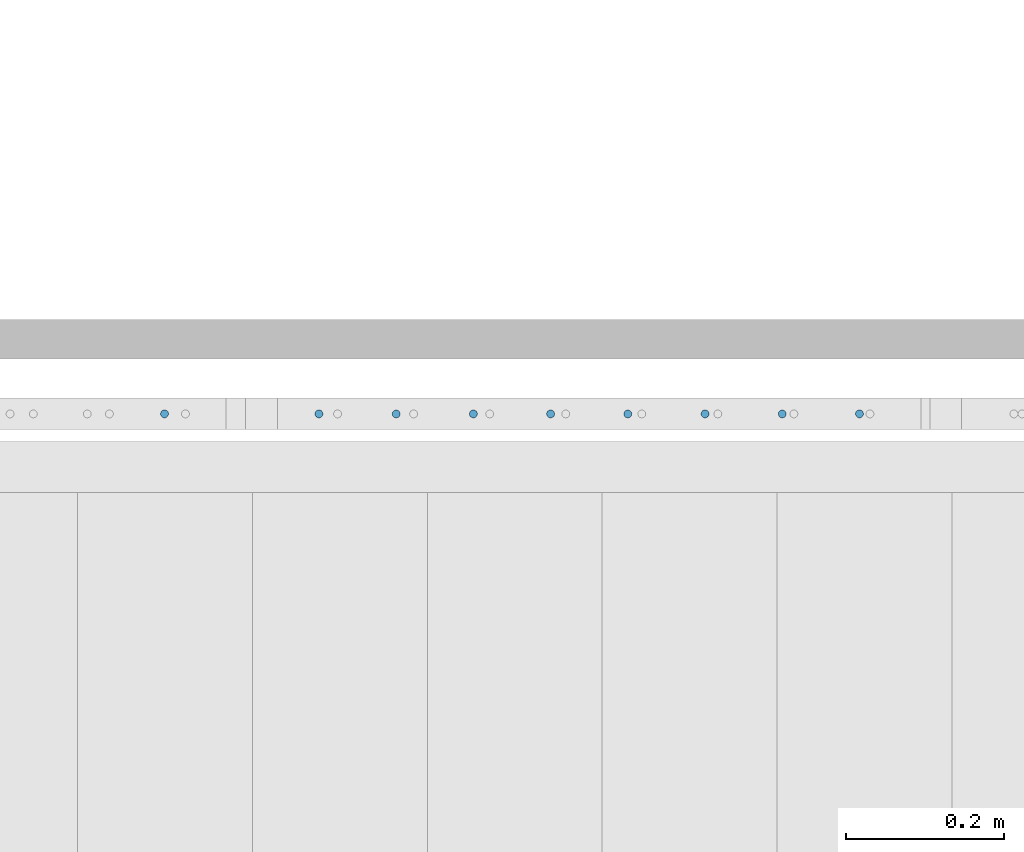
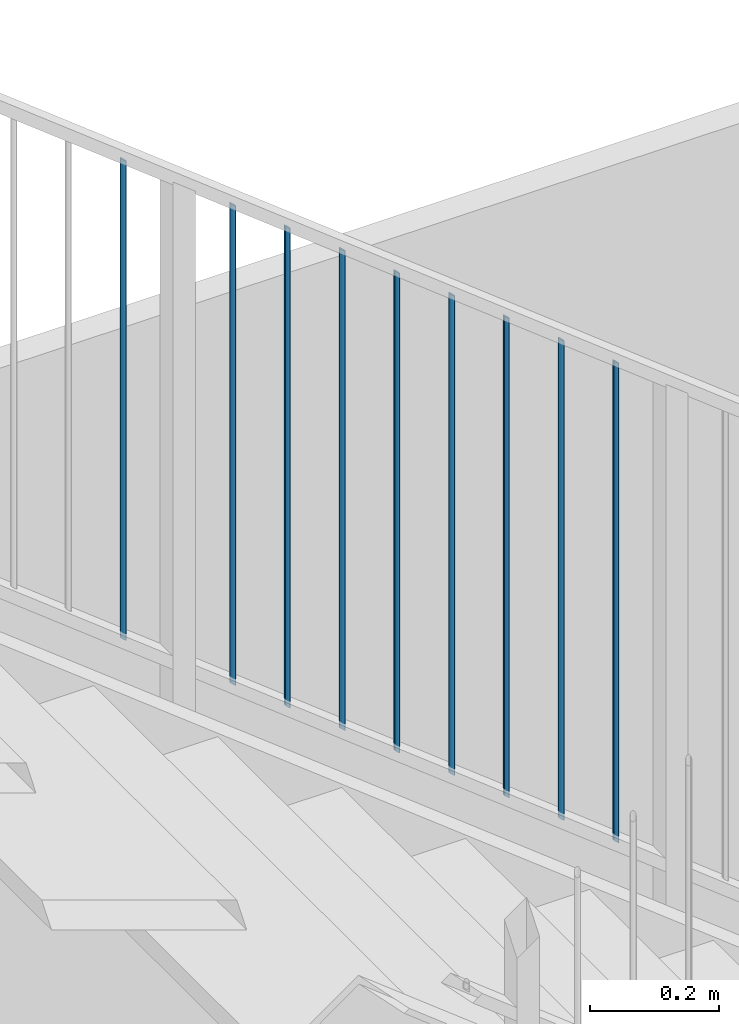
# One storey, part 31 of 135: 9 members, 1 element without a shape of its own.
"""IFC2X3 building model written with IfcOpenShell, lengths in millimetres."""

from ifc_helpers import new_model, entity, si_unit, converted_unit, derived_unit, money_unit, direction, frame, origin_with_axes, place, context, subcontext, project, spatial, faceted_brep, source, transform, mapped, material, type_object, type_shapes, element, aggregate, save


model = new_model("IFC2X3")

# Units and contexts
model_context = context("Model", 3, precision=0.01, world=origin_with_axes(), true_north=direction((0.0, 1.0)))
body_context = subcontext(model_context, "Body", "Model", "MODEL_VIEW")
ifc_project = project(units=[si_unit("LENGTHUNIT", "METRE", prefix="MILLI"), si_unit("AREAUNIT", "SQUARE_METRE"), si_unit("VOLUMEUNIT", "CUBIC_METRE"), converted_unit("PLANEANGLEUNIT", "DEGREE", entity("IfcPlaneAngleMeasure", 0.0174532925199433), si_unit("PLANEANGLEUNIT", "RADIAN"), dimensions=[0, 0, 0, 0, 0, 0, 0]), money_unit("EUR"), converted_unit("TIMEUNIT", "Year", entity("IfcTimeMeasure", 31557600.0), si_unit("TIMEUNIT", "SECOND"), dimensions=[0, 0, 1, 0, 0, 0, 0]), si_unit("MASSUNIT", "GRAM", prefix="KILO"), si_unit("THERMODYNAMICTEMPERATUREUNIT", "DEGREE_CELSIUS"), si_unit("LUMINOUSINTENSITYUNIT", "LUMEN"), si_unit("ENERGYUNIT", "JOULE", prefix="MEGA"), derived_unit("THERMALCONDUCTANCEUNIT", [(si_unit("POWERUNIT", "WATT"), 1), (si_unit("LENGTHUNIT", "METRE"), -1), (si_unit("THERMODYNAMICTEMPERATUREUNIT", "KELVIN"), -1)]), derived_unit("SPECIFICHEATCAPACITYUNIT", [(si_unit("ENERGYUNIT", "JOULE"), 1), (si_unit("MASSUNIT", "GRAM", prefix="KILO"), -1), (si_unit("THERMODYNAMICTEMPERATUREUNIT", "KELVIN"), -1)]), derived_unit("MASSDENSITYUNIT", [(si_unit("MASSUNIT", "GRAM", prefix="KILO"), 1), (si_unit("VOLUMEUNIT", "CUBIC_METRE"), -1)])], contexts=[model_context])

# Site, building, storey
site_placement = place(None, origin_with_axes())
site = spatial("IfcSite", under=ifc_project, at=site_placement, Name="Site", CompositionType="ELEMENT")
building_placement = place(site_placement, origin_with_axes())
building = spatial("IfcBuilding", under=site, at=building_placement, Name="Naam gebouw", CompositionType="ELEMENT")
storey_placement = place(building_placement, origin_with_axes())
storey = spatial("IfcBuildingStorey", under=building, at=storey_placement, Name="Begane grond N", CompositionType="ELEMENT", Elevation=0.0)

# Railing, members
railing_type = type_object("IfcRailingType", Name="Railing Type", PredefinedType="NOTDEFINED")
railing_placement = place(storey_placement, frame((56236.62159597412, 21185.9124251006, 157.4646725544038), z_axis=(0.0, 0.0, 1.0), x_axis=(1.0, 0.0, 0.0)))
railing = element("IfcRailing", 1, at=railing_placement, inside=storey, type_object=railing_type, Name="_Reling-x", PredefinedType="NOTDEFINED")
ifc_material = material(Name="Metaal - Staal C")
member_type = type_object("IfcMemberType", Name="IfcMember", PredefinedType="MEMBER")
shared_shape = source(origin_with_axes(), body_context, "Body", "Brep", [
    faceted_brep([(0.0, -5.000000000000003, -3.920371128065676), (0.8682408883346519, -4.924038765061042, -3.860811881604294), (0.8682408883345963, -4.92403876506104, 903.6391881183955), (0.0, -5.0, 903.5796288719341), (-0.8682408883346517, -4.924038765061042, -3.860811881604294), (-1.710100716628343, -4.698463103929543, -3.683943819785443), (-2.500000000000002, -4.330127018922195, -3.395140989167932), (-3.213938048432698, -3.830222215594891, -3.00317851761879), (-3.830222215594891, -3.213938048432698, -2.519965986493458), (-4.330127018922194, -2.500000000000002, -1.960185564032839), (-4.698463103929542, -1.710100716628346, -1.340845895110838), (-4.924038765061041, -0.8682408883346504, -0.6807653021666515), (-5.0, 0.0, 0.0), (-4.92403876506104, 0.8682408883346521, 0.6807653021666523), (-4.698463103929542, 1.710100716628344, 1.340845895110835), (-4.330127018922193, 2.500000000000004, 1.960185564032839), (-3.83022221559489, 3.213938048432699, 2.519965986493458), (-3.213938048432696, 3.830222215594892, 3.003178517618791), (-2.5, 4.330127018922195, 3.395140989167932), (-1.710100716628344, 4.698463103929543, 3.683943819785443), (-0.8682408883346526, 4.924038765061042, 3.860811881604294), (0.0, 5.000000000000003, 3.920371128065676), (0.8682408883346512, 4.924038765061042, 3.860811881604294), (1.710100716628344, 4.698463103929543, 3.683943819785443), (2.5, 4.330127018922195, 3.395140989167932), (3.213938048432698, 3.830222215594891, 3.00317851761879), (3.83022221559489, 3.213938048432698, 2.519965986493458), (4.330127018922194, 2.5, 1.960185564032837), (4.698463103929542, 1.710100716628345, 1.340845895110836), (4.92403876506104, 0.868240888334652, 0.6807653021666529), (5.0, 0.0, 0.0), (4.92403876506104, -0.8682408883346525, -0.6807653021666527), (4.698463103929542, -1.710100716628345, -1.340845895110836), (4.330127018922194, -2.500000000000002, -1.960185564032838), (3.83022221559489, -3.213938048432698, -2.519965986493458), (3.213938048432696, -3.830222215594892, -3.003178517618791), (2.5, -4.330127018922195, -3.395140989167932), (1.710100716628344, -4.698463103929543, -3.683943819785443), (1.710100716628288, -4.698463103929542, 903.8160561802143), (2.499999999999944, -4.330127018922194, 904.1048590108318), (3.213938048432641, -3.83022221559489, 904.4968214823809), (3.830222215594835, -3.213938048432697, 904.9800340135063), (4.330127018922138, -2.5, 905.5398144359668), (4.698463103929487, -1.710100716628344, 906.1591541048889), (4.924038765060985, -0.8682408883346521, 906.819234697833), (4.999999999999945, 0.0, 907.4999999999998), (4.924038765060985, 0.8682408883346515, 908.1807653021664), (4.698463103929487, 1.710100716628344, 908.8408458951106), (4.330127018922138, 2.499999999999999, 909.4601855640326), (3.830222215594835, 3.213938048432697, 910.0199659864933), (3.213938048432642, 3.83022221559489, 910.5031785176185), (2.499999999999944, 4.330127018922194, 910.8951409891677), (1.710100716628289, 4.698463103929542, 911.1839438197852), (0.8682408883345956, 4.92403876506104, 911.360811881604), (0.0, 5.0, 911.4203711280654), (-0.8682408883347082, 4.92403876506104, 911.360811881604), (-1.710100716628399, 4.698463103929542, 911.1839438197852), (-2.500000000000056, 4.330127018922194, 910.8951409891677), (-3.213938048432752, 3.83022221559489, 910.5031785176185), (-3.830222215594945, 3.213938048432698, 910.0199659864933), (-4.330127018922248, 2.500000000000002, 909.4601855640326), (-4.698463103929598, 1.710100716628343, 908.8408458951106), (-4.924038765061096, 0.8682408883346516, 908.1807653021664), (-5.000000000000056, 0.0, 907.4999999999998), (-4.924038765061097, -0.86824088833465, 906.819234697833), (-4.698463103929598, -1.710100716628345, 906.1591541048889), (-4.330127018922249, -2.5, 905.5398144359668), (-3.830222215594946, -3.213938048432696, 904.9800340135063), (-3.213938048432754, -3.830222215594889, 904.4968214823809), (-2.500000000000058, -4.330127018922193, 904.1048590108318), (-1.710100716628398, -4.698463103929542, 903.8160561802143), (-0.8682408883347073, -4.92403876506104, 903.6391881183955)], [[[0, 1, 2, 3]], [[0, 4, 5, 6, 7, 8, 9, 10, 11, 12, 13, 14, 15, 16, 17, 18, 19, 20, 21, 22, 23, 24, 25, 26, 27, 28, 29, 30, 31, 32, 33, 34, 35, 36, 37, 1]], [[1, 37, 38, 2]], [[3, 2, 38, 39, 40, 41, 42, 43, 44, 45, 46, 47, 48, 49, 50, 51, 52, 53, 54, 55, 56, 57, 58, 59, 60, 61, 62, 63, 64, 65, 66, 67, 68, 69, 70, 71]], [[4, 0, 3, 71]], [[5, 4, 71, 70]], [[6, 5, 70, 69]], [[7, 6, 69, 68]], [[8, 7, 68, 67]], [[9, 8, 67, 66]], [[10, 9, 66, 65]], [[11, 10, 65, 64]], [[12, 11, 64, 63]], [[13, 12, 63, 62]], [[14, 13, 62, 61]], [[15, 14, 61, 60]], [[16, 15, 60, 59]], [[17, 16, 59, 58]], [[18, 17, 58, 57]], [[19, 18, 57, 56]], [[20, 19, 56, 55]], [[21, 20, 55, 54]], [[22, 21, 54, 53]], [[23, 22, 53, 52]], [[24, 23, 52, 51]], [[25, 24, 51, 50]], [[26, 25, 50, 49]], [[27, 26, 49, 48]], [[28, 27, 48, 47]], [[29, 28, 47, 46]], [[30, 29, 46, 45]], [[31, 30, 45, 44]], [[32, 31, 44, 43]], [[33, 32, 43, 42]], [[34, 33, 42, 41]], [[35, 34, 41, 40]], [[36, 35, 40, 39]], [[37, 36, 39, 38]]]),
])
type_shapes(member_type, [shared_shape])
member_1_placement = place(railing_placement, frame((1768.214984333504, 2465.000000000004, 2768.710460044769), z_axis=(0.0, 0.0, 1.0), x_axis=(1.0, 0.0, 0.0)))
member_1 = element("IfcMember", 2, at=member_1_placement, type_object=member_type, material=ifc_material, Name="_Spijlen-x", ObjectType="MEMBER", context=body_context, shape_type="MappedRepresentation", body=[
    mapped(shared_shape, transform((0.0, 0.0, 0.0), x_axis=(0.0, 1.0, 0.0), y_axis=(-1.0, 0.0, 0.0), z_axis=(0.0, 0.0, 1.0))),
])
member_2_placement = place(railing_placement, frame((1670.201110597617, 2465.000000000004, 2845.560612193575), z_axis=(0.0, 0.0, 1.0), x_axis=(1.0, 0.0, 0.0)))
member_2 = element("IfcMember", 3, at=member_2_placement, type_object=member_type, material=ifc_material, Name="_Spijlen-x", ObjectType="MEMBER", context=body_context, shape_type="MappedRepresentation", body=[
    mapped(shared_shape, transform((0.0, 0.0, 0.0), x_axis=(0.0, 1.0, 0.0), y_axis=(-1.0, 0.0, 0.0), z_axis=(0.0, 0.0, 1.0))),
])
member_3_placement = place(railing_placement, frame((1572.187236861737, 2465.000000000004, 2922.410764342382), z_axis=(0.0, 0.0, 1.0), x_axis=(1.0, 0.0, 0.0)))
member_3 = element("IfcMember", 4, at=member_3_placement, type_object=member_type, material=ifc_material, Name="_Spijlen-x", ObjectType="MEMBER", context=body_context, shape_type="MappedRepresentation", body=[
    mapped(shared_shape, transform((0.0, 0.0, 0.0), x_axis=(0.0, 1.0, 0.0), y_axis=(-1.0, 0.0, 0.0), z_axis=(0.0, 0.0, 1.0))),
])
member_4_placement = place(railing_placement, frame((1474.17336312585, 2465.000000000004, 2999.260916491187), z_axis=(0.0, 0.0, 1.0), x_axis=(1.0, 0.0, 0.0)))
member_4 = element("IfcMember", 5, at=member_4_placement, type_object=member_type, material=ifc_material, Name="_Spijlen-x", ObjectType="MEMBER", context=body_context, shape_type="MappedRepresentation", body=[
    mapped(shared_shape, transform((0.0, 0.0, 0.0), x_axis=(0.0, 1.0, 0.0), y_axis=(-1.0, 0.0, 0.0), z_axis=(0.0, 0.0, 1.0))),
])
member_5_placement = place(railing_placement, frame((1376.15948938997, 2465.000000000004, 3076.111068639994), z_axis=(0.0, 0.0, 1.0), x_axis=(1.0, 0.0, 0.0)))
member_5 = element("IfcMember", 6, at=member_5_placement, type_object=member_type, material=ifc_material, Name="_Spijlen-x", ObjectType="MEMBER", context=body_context, shape_type="MappedRepresentation", body=[
    mapped(shared_shape, transform((0.0, 0.0, 0.0), x_axis=(0.0, 1.0, 0.0), y_axis=(-1.0, 0.0, 0.0), z_axis=(0.0, 0.0, 1.0))),
])
member_6_placement = place(railing_placement, frame((1278.145615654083, 2465.000000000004, 3152.961220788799), z_axis=(0.0, 0.0, 1.0), x_axis=(1.0, 0.0, 0.0)))
member_6 = element("IfcMember", 7, at=member_6_placement, type_object=member_type, material=ifc_material, Name="_Spijlen-x", ObjectType="MEMBER", context=body_context, shape_type="MappedRepresentation", body=[
    mapped(shared_shape, transform((0.0, 0.0, 0.0), x_axis=(0.0, 1.0, 0.0), y_axis=(-1.0, 0.0, 0.0), z_axis=(0.0, 0.0, 1.0))),
])
member_7_placement = place(railing_placement, frame((1180.131741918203, 2465.000000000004, 3229.811372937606), z_axis=(0.0, 0.0, 1.0), x_axis=(1.0, 0.0, 0.0)))
member_7 = element("IfcMember", 8, at=member_7_placement, type_object=member_type, material=ifc_material, Name="_Spijlen-x", ObjectType="MEMBER", context=body_context, shape_type="MappedRepresentation", body=[
    mapped(shared_shape, transform((0.0, 0.0, 0.0), x_axis=(0.0, 1.0, 0.0), y_axis=(-1.0, 0.0, 0.0), z_axis=(0.0, 0.0, 1.0))),
])
member_8_placement = place(railing_placement, frame((1082.117868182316, 2465.000000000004, 3306.661525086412), z_axis=(0.0, 0.0, 1.0), x_axis=(1.0, 0.0, 0.0)))
member_8 = element("IfcMember", 9, at=member_8_placement, type_object=member_type, material=ifc_material, Name="_Spijlen-x", ObjectType="MEMBER", context=body_context, shape_type="MappedRepresentation", body=[
    mapped(shared_shape, transform((0.0, 0.0, 0.0), x_axis=(0.0, 1.0, 0.0), y_axis=(-1.0, 0.0, 0.0), z_axis=(0.0, 0.0, 1.0))),
])
member_9_placement = place(railing_placement, frame((886.0901207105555, 2465.000000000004, 3460.361829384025), z_axis=(0.0, 0.0, 1.0), x_axis=(1.0, 0.0, 0.0)))
member_9 = element("IfcMember", 10, at=member_9_placement, type_object=member_type, material=ifc_material, Name="_Spijlen-x", ObjectType="MEMBER", context=body_context, shape_type="MappedRepresentation", body=[
    mapped(shared_shape, transform((0.0, 0.0, 0.0), x_axis=(0.0, 1.0, 0.0), y_axis=(-1.0, 0.0, 0.0), z_axis=(0.0, 0.0, 1.0))),
])
aggregate(railing, [member_1, member_2, member_3, member_4, member_5, member_6, member_7, member_8, member_9])

save(model, "model.ifc")
